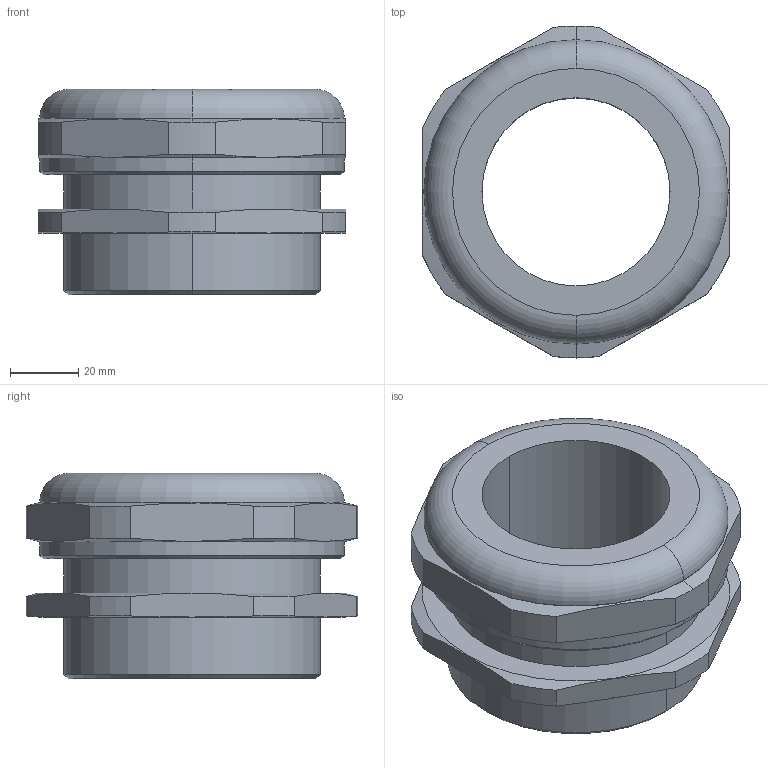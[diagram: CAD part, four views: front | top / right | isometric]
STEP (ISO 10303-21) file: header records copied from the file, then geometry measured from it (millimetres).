
FILE_DESCRIPTION (( 'STEP AP203' ), '1' );
FILE_NAME ('1010M75-1.STEP', '2006-08-11T08:43:39', ( ' ' ), ( '' ), 'SwSTEP 2.0', 'SolidWorks 2005278', '' );
FILE_SCHEMA (( 'CONFIG_CONTROL_DESIGN' ));
Length unit declared in the file: millimetre
Products named in the file (1): 1010M75-1
Bounding box: 90 x 97 x 60 mm (x, y, z)
Volume: 187173.1 mm3; surface area: 38318.2 mm2
Topology: 1 solids, 1 shells, 92 faces, 239 edges, 155 vertices
Faces by surface type: plane 54, cylinder 24, cone 12, torus 2
Entity records: 3009 total; most frequent: CARTESIAN_POINT 665, ORIENTED_EDGE 478, DIRECTION 462, EDGE_CURVE 239, AXIS2_PLACEMENT_3D 156, VERTEX_POINT 155, VECTOR 150, LINE 150
